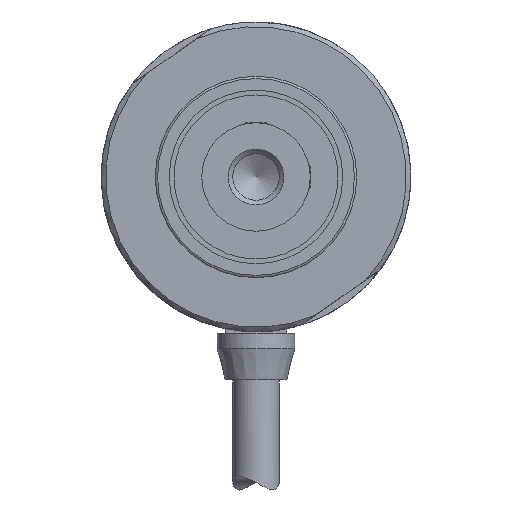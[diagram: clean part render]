
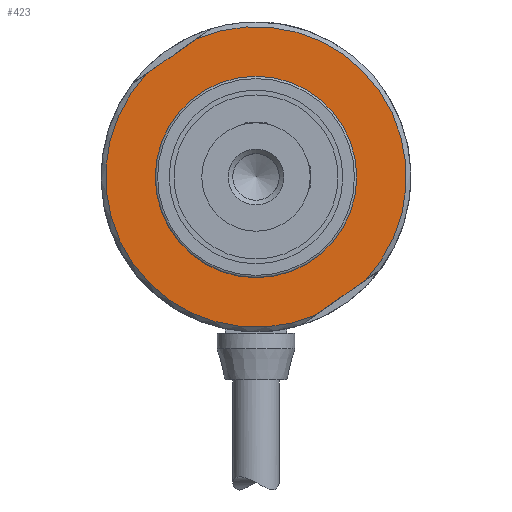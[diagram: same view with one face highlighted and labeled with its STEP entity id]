
A CAD part, left-side view. The second image highlights one B-rep face of the part: STEP entity #423.
In plain terms, the highlighted planar face has unit normal (-1, 0, 0).
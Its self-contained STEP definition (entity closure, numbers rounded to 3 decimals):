
#423=ADVANCED_FACE('',(#926,#927),#928,.T.);
#926=FACE_OUTER_BOUND('',#1540,.T.);
#927=FACE_BOUND('',#1541,.T.);
#928=PLANE('',#1542);
#1540=EDGE_LOOP('',(#2469,#2470,#2471,#2472));
#1541=EDGE_LOOP('',(#2473));
#1542=AXIS2_PLACEMENT_3D('',#2474,#2475,#2476);
#2469=ORIENTED_EDGE('',*,*,#3419,.F.);
#2470=ORIENTED_EDGE('',*,*,#3431,.T.);
#2471=ORIENTED_EDGE('',*,*,#3370,.F.);
#2472=ORIENTED_EDGE('',*,*,#3432,.T.);
#2473=ORIENTED_EDGE('',*,*,#3433,.F.);
#2474=CARTESIAN_POINT('',(0.,0.0,-8.0));
#2475=DIRECTION('',(-1.0,0.0,0.0));
#2476=DIRECTION('',(0.0,0.0,1.0));
#3370=EDGE_CURVE('',#3954,#3957,#3958,.T.);
#3419=EDGE_CURVE('',#4031,#4034,#4035,.T.);
#3431=EDGE_CURVE('',#4031,#3957,#4051,.F.);
#3432=EDGE_CURVE('',#3954,#4034,#4052,.F.);
#3433=EDGE_CURVE('',#4053,#4053,#4054,.T.);
#3954=VERTEX_POINT('',#4903);
#3957=VERTEX_POINT('',#4909);
#3958=LINE('',#4910,#4911);
#4031=VERTEX_POINT('',#5050);
#4034=VERTEX_POINT('',#5056);
#4035=LINE('',#5057,#5058);
#4051=CIRCLE('',#5127,9.7);
#4052=CIRCLE('',#5128,9.7);
#4053=VERTEX_POINT('',#5129);
#4054=CIRCLE('',#5130,6.5);
#4903=CARTESIAN_POINT('',(0.0,-7.054,-6.658));
#4909=CARTESIAN_POINT('',(0.0,-3.844,-8.906));
#4910=CARTESIAN_POINT('',(0.0,-5.449,-7.782));
#4911=VECTOR('',#5968,1.0);
#5050=CARTESIAN_POINT('',(0.0,7.054,6.658));
#5056=CARTESIAN_POINT('',(0.0,3.844,8.906));
#5057=CARTESIAN_POINT('',(0.0,5.449,7.782));
#5058=VECTOR('',#6022,1.0);
#5127=AXIS2_PLACEMENT_3D('',#6031,#6032,#6033);
#5128=AXIS2_PLACEMENT_3D('',#6034,#6035,#6036);
#5129=CARTESIAN_POINT('',(0.,0.0,6.5));
#5130=AXIS2_PLACEMENT_3D('',#6037,#6038,#6039);
#5968=DIRECTION('',(0.0,0.819,-0.574));
#6022=DIRECTION('',(0.0,-0.819,0.574));
#6031=CARTESIAN_POINT('',(0.,0.0,0.0));
#6032=DIRECTION('',(1.0,0.0,0.0));
#6033=DIRECTION('',(0.0,0.0,-1.0));
#6034=CARTESIAN_POINT('',(0.,0.0,0.0));
#6035=DIRECTION('',(1.0,0.0,0.0));
#6036=DIRECTION('',(0.0,0.0,-1.0));
#6037=CARTESIAN_POINT('',(0.,0.0,0.0));
#6038=DIRECTION('',(-1.0,0.0,0.0));
#6039=DIRECTION('',(0.0,0.0,1.0));
